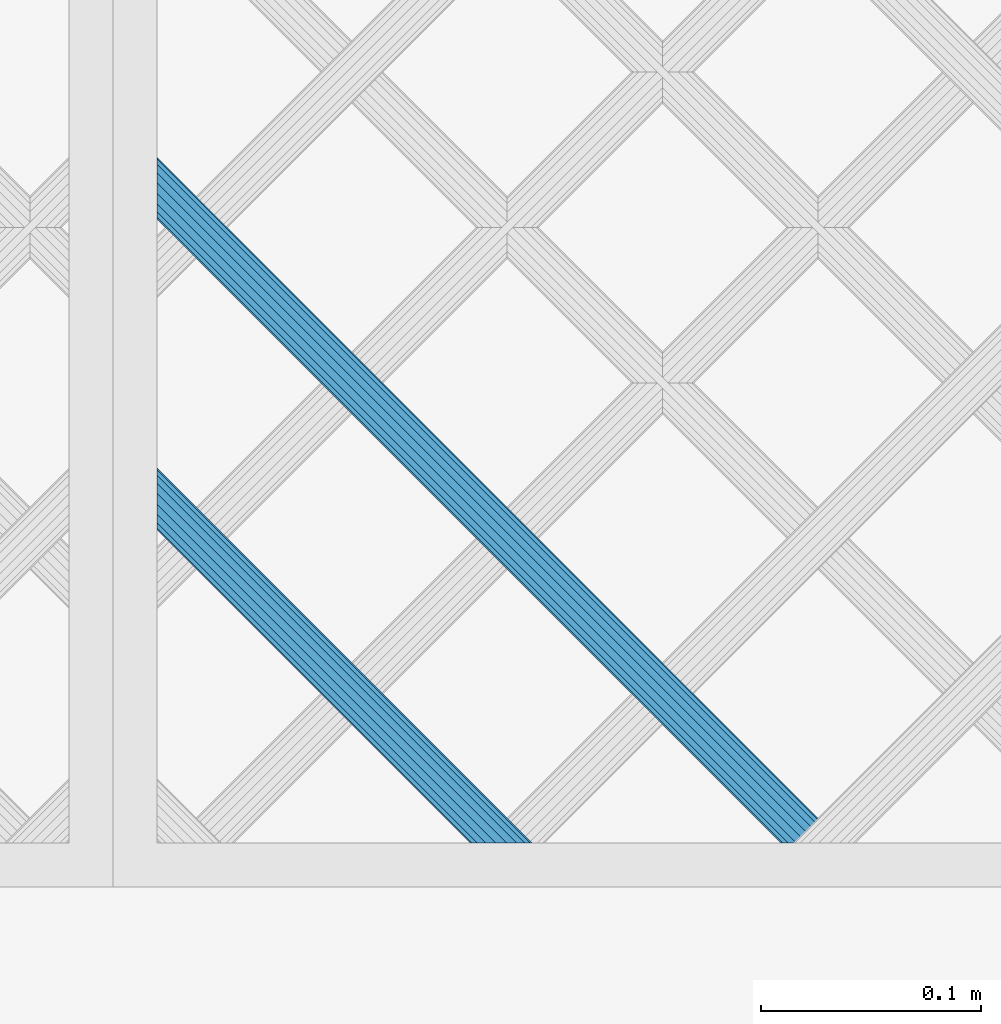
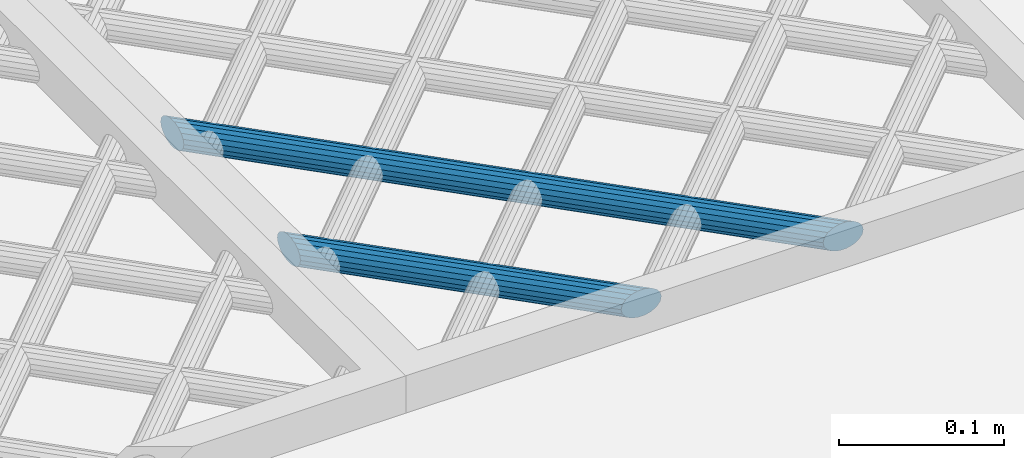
# One storey, part 78 of 133: 2 members, 1 element without a shape of its own.
"""IFC2X3 building model written with IfcOpenShell, lengths in centimetres."""

from ifc_helpers import new_model, entity, si_unit, converted_unit, direction, frame, origin, origin_with_axes, place, context, subcontext, project, spatial, faceted_brep, material, type_object, element, aggregate, save


model = new_model("IFC2X3")

# Units and contexts
model_context = context("Model", 3, precision=0.0001, world=origin(), true_north=direction((0.225632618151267, 0.974212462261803, 0.0)))
body_context = subcontext(model_context, "Body", "Model", "MODEL_VIEW")
ifc_project = project(units=[si_unit("LENGTHUNIT", "METRE", prefix="CENTI"), si_unit("AREAUNIT", "SQUARE_METRE", prefix="CENTI"), si_unit("VOLUMEUNIT", "CUBIC_METRE", prefix="CENTI"), converted_unit("PLANEANGLEUNIT", "DEGREE", entity("IfcRatioMeasure", 0.0174532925), si_unit("PLANEANGLEUNIT", "RADIAN"), dimensions=[0, 0, 0, 0, 0, 0, 0])], contexts=[model_context])

# Site, building, storey
site_placement = place(None, origin_with_axes())
site = spatial("IfcSite", under=ifc_project, at=site_placement, Name="Default Site", CompositionType="ELEMENT")
building_placement = place(site_placement, origin_with_axes())
building = spatial("IfcBuilding", under=site, at=building_placement, Name="Default Building", CompositionType="ELEMENT")
storey_placement = place(building_placement, frame((0.0, 0.0, -291.400371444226), z_axis=(0.0, 0.0, 1.0), x_axis=(1.0, 0.0, 0.0)))
storey = spatial("IfcBuildingStorey", under=building, at=storey_placement, Name="Rez-de-Jardin", CompositionType="ELEMENT", Elevation=-291.400371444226)

# Assembly, members
building_element_proxy_type = type_object("IfcBuildingElementProxyType", Name="Type Object", PredefinedType="NOTDEFINED")
assembly_placement = place(storey_placement, frame((23.728219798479, 1298.33524038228, 113.0), z_axis=(0.0, 1.0, -2.38697950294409e-15), x_axis=(1.0, 0.0, 0.0)))
assembly = element("IfcElementAssembly", 1, at=assembly_placement, inside=storey, type_object=building_element_proxy_type, Name="Panneau 326485", ObjectType="Precast panel", PredefinedType="USERDEFINED")
ifc_material = material(Name="Aluminium satiné")
member_1_placement = place(assembly_placement, frame((30.4578691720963, 0.3420201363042, 1.99999995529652), z_axis=(1.16937776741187e-15, 1.43218081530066e-15, -1.0), x_axis=(-0.632457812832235, -0.774594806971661, -1.84894192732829e-15)))
member_1 = element("IfcMember", 2, at=member_1_placement, material=ifc_material, Name="4294966871", context=body_context, shape_type="Brep", body=[
    faceted_brep([(-1.38777878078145e-14, 0.0, 3.50414142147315e-14), (-0.388290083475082, -4.74034897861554e-48, 3.57593400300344e-14), (-0.799166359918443, -0.150246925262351, 3.6519026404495e-14), (-1.18307514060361, -0.432623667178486, 3.72288514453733e-14), (-1.49370756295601, -0.813066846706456, 3.78031927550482e-14), (-1.69359804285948, -1.24569095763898, 3.81727786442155e-14), (-1.75863665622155, -1.67831484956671, 3.82930312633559e-14), (-1.68098087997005, -2.05876033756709, 3.81494502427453e-14), (-1.46999321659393, -2.34113520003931, 3.77593463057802e-14), (-1.15112683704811, -2.49138695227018, 3.71697808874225e-14), (-0.762836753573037, -2.49138695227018, 3.64518550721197e-14), (-0.351960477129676, -2.34114002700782, 3.5692168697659e-14), (0.0319464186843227, -2.0587655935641, 3.49823471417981e-14), (0.342578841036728, -1.67832241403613, 3.44080058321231e-14), (0.542471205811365, -1.24569599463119, 3.40384164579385e-14), (0.607509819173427, -0.81307210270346, 3.39181638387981e-14), (0.529854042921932, -0.432626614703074, 3.40617448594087e-14), (0.318866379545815, -0.150251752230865, 3.44518487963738e-14), (18.2633287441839, 21.8270044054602, -28.3725839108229), (18.5282557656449, 21.6106910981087, -28.4578692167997), (18.7612286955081, 21.4204683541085, -28.7034463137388), (18.9341475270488, 21.2792798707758, -29.0796887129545), (19.026155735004, 21.2041550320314, -29.5412223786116), (19.026155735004, 21.2041550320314, -30.0323735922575), (18.9341475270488, 21.2792798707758, -30.4939042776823), (18.7612286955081, 21.4204683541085, -30.870146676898), (18.5282557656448, 21.6106910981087, -31.1157237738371), (18.2633287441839, 21.8270044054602, -31.201009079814), (17.9984017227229, 22.0433177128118, -31.1157237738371), (17.7654287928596, 22.233540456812, -30.870146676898), (17.592509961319, 22.3747289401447, -30.4939042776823), (17.5005017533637, 22.4498537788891, -30.0323735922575), (17.5005017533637, 22.4498537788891, -29.5412223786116), (17.592509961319, 22.3747289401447, -29.0796887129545), (17.7654287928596, 22.233540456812, -28.7034463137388), (17.9984017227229, 22.0433177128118, -28.4578692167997), (0.318866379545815, -0.150251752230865, 3.43475248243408e-14), (0.529853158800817, -0.432627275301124, -1.07086509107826e-06), (18.5282548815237, 21.6106904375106, -28.4578702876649), (0.529854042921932, -0.432626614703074, 3.43475248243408e-14), (0.607510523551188, -0.813071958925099, 5.56859223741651e-07), (18.7612293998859, 21.4204684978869, -28.7034457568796), (0.607509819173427, -0.81307210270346, 3.36536354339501e-14), (0.542470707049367, -1.24569591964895, -2.57365033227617e-07), (18.9341470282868, 21.2792799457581, -29.0796889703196), (0.542471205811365, -1.24569599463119, 3.40005801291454e-14), (0.342579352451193, -1.67832265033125, 1.40415138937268e-07), (19.0261562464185, 21.2041547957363, -29.5412222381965), (0.342578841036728, -1.67832241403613, 3.43475248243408e-14), (0.0319464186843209, -2.0587655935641, 3.50414142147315e-14), (0.0319464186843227, -2.0587655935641, 3.50414142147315e-14), (-0.351960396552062, -2.3411401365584, -3.38953304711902e-08), (18.9341476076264, 21.2792797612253, -30.4939043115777), (-0.351960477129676, -2.34114002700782, 3.57353036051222e-14), (-0.762836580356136, -2.4913874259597, -2.57365028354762e-07), (18.761228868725, 21.420467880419, -30.8701469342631), (-0.762836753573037, -2.49138695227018, 3.64291929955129e-14), (-1.15112683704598, -2.49138623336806, 5.56859226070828e-07), (18.528255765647, 21.6106918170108, -31.1157232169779), (-1.15112683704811, -2.49138695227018, 3.7470027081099e-14), (-1.46999368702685, -2.34113619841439, -1.07086508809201e-06), (18.263328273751, 21.8270034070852, -31.2010101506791), (18.5282557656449, 21.6106910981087, -31.1157237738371), (-1.46999321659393, -2.34113520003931, 3.78169717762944e-14), (-1.68097999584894, -2.05875967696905, 1.0708651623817e-06), (17.998402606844, 22.0433183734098, -31.115722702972), (-1.68098087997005, -2.05876033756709, 3.81639164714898e-14), (-1.75863736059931, -1.67831499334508, -5.56859151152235e-07), (17.7654280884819, 22.2335403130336, -30.8701472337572), (-1.75863665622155, -1.67831484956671, 3.85108611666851e-14), (-1.69359754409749, -1.24569103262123, 2.57365105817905e-07), (17.592510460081, 22.3747288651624, -30.4939040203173), (-1.69359804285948, -1.24569095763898, 3.85108611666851e-14), (-1.49370743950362, -0.813066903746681, 3.38954026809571e-08), (17.5005018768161, 22.4498537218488, -30.0323735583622), (-1.49370756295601, -0.813066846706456, 3.78169717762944e-14), (-1.18307514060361, -0.432623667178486, 3.71230823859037e-14), (-0.799166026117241, -0.150247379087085, -1.40415066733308e-07), (17.5925102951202, 22.3747284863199, -29.0796888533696), (-0.799166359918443, -0.150246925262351, 3.67761376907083e-14), (-0.388290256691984, 4.73689528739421e-07, 2.5736510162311e-07), (17.7654286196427, 22.2335409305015, -28.7034460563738), (-0.388290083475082, 0.0, 3.57353036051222e-14), (-2.14350313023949e-12, -7.18902111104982e-07, -5.56859153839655e-07), (17.9984017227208, 22.0433169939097, -28.4578697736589), (0.31886684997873, -0.150250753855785, 1.07086515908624e-06), (18.2633292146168, 21.8270054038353, -28.3725828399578)], [[[0, 1, 2, 3, 4, 5, 6, 7, 8, 9, 10, 11, 12, 13, 14, 15, 16, 17]], [[18, 19, 20, 21, 22, 23, 24, 25, 26, 27, 28, 29, 30, 31, 32, 33, 34, 35]], [[36, 37, 38, 18]], [[39, 40, 41, 19]], [[42, 43, 44, 20]], [[45, 46, 47, 21]], [[48, 49, 23, 22]], [[50, 51, 52, 23]], [[53, 54, 55, 24]], [[56, 57, 58, 25]], [[59, 60, 61, 62]], [[63, 64, 65, 27]], [[66, 67, 68, 28]], [[69, 70, 71, 29]], [[72, 73, 74, 30]], [[75, 76, 32, 31]], [[76, 77, 78, 32]], [[79, 80, 81, 33]], [[82, 83, 84, 34]], [[0, 85, 86, 35]]]),
])
member_2_placement = place(assembly_placement, frame((16.3157343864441, 0.3420201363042, 1.99999995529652), z_axis=(1.16937634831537e-15, 1.43218776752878e-15, -1.0), x_axis=(-0.632455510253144, -0.774596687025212, -1.84894641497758e-15)))
member_2 = element("IfcMember", 3, at=member_2_placement, material=ifc_material, Name="4294966870", context=body_context, shape_type="Brep", body=[
    faceted_brep([(-4.16333634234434e-15, -1.11022302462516e-14, 1.83880688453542e-14), (-0.388289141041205, -1.11022302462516e-14, 1.9105994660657e-14), (-0.799165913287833, -0.150249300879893, 1.98656837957e-14), (-1.18307291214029, -0.432626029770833, 2.0575507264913e-14), (-1.49370420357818, -0.813070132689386, 2.1149847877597e-14), (-1.69359339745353, -1.24569483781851, 2.15194322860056e-14), (-1.75863166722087, -1.67832007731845, 2.16396845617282e-14), (-1.68097381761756, -2.058764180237, 2.14960993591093e-14), (-1.46998625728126, -2.34113956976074, 2.11059946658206e-14), (-1.15111848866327, -2.49138921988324, 2.05164252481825e-14), (-0.762829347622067, -2.49138921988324, 1.97984994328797e-14), (-0.351952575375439, -2.34113991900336, 1.90388102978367e-14), (0.0319534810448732, -2.05876434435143, 1.83289885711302e-14), (0.342584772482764, -1.67832024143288, 1.77546479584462e-14), (0.542474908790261, -1.24569438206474, 1.73850618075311e-14), (0.607513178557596, -0.81306914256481, 1.72648095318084e-14), (0.529855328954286, -0.432625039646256, 1.74083947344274e-14), (0.318867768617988, -0.150249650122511, 1.7798499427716e-14), (9.31899278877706, 10.8726079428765, -14.2304476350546), (9.58392045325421, 10.6562954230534, -14.3157344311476), (9.81689394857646, 10.4660733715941, -14.5613100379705), (9.98981319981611, 10.3248854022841, -14.9375539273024), (10.0818216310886, 10.2497608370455, -15.3990861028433), (10.0818216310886, 10.2497608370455, -15.8902373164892), (9.9898131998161, 10.3248854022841, -16.351768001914), (9.81689394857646, 10.4660733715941, -16.7280118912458), (9.5839204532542, 10.6562954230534, -16.9735874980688), (9.31899278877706, 10.8726079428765, -17.0588742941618), (9.05406512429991, 11.0889204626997, -16.9735874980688), (8.82109162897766, 11.2791425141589, -16.7280118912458), (8.64817237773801, 11.420330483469, -16.351768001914), (8.55616394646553, 11.4954550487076, -15.8902373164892), (8.55616394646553, 11.4954550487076, -15.3990861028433), (8.64817237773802, 11.420330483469, -14.9375539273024), (8.82109162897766, 11.2791425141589, -14.5613100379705), (9.05406512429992, 11.0889204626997, -14.3157344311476), (0.318867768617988, -0.150249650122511, 1.80411241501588e-14), (0.52985504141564, -0.432625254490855, -3.48273298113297e-07), (9.58392016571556, 10.6562952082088, -14.3157347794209), (9.31899278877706, 10.8726079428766, -14.2304476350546), (0.529855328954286, -0.432625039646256, 1.76941794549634e-14), (0.607513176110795, -0.813069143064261, -1.93434894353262e-09), (9.81689394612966, 10.4660733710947, -14.5613100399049), (0.607513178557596, -0.81306914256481, 1.73472347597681e-14), (0.542475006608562, -1.24569439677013, 5.04749983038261e-08), (9.98981329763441, 10.3248853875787, -14.9375538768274), (9.81689394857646, 10.4660733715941, -14.5613100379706), (0.542474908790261, -1.24569438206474, 1.73472347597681e-14), (0.342584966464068, -1.67832033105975, 5.32598875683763e-08), (10.0818218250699, 10.2497607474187, -15.3990860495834), (9.9898131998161, 10.3248854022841, -14.9375539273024), (0.342584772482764, -1.67832024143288, 1.80411241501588e-14), (0.0319534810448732, -2.05876434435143, 1.83880688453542e-14), (-0.351952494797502, -2.3411400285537, -3.38953462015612e-08), (9.98981328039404, 10.3248852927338, -16.3517680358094), (-0.351952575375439, -2.34113991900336, 1.90819582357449e-14), (-0.762829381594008, -2.49138912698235, 5.04750004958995e-08), (9.81689391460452, 10.466073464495, -16.7280118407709), (-0.762829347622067, -2.49138921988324, 1.97758476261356e-14), (-1.15111848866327, -2.4913892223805, -1.93434547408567e-09), (9.5839204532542, 10.6562954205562, -16.9735875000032), (9.81689394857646, 10.4660733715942, -16.7280118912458), (-1.15111848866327, -2.49138921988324, 2.08166817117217e-14), (-1.46998641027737, -2.34113989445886, -3.4827329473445e-07), (9.31899263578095, 10.8726076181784, -17.0588746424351), (-1.46998625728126, -2.34113956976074, 2.1163626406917e-14), (-1.68097353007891, -2.0587639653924, 3.48273337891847e-07), (9.05406541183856, 11.0889206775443, -16.9735871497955), (9.31899278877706, 10.8726079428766, -17.0588742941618), (-1.68097381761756, -2.058764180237, 2.15105711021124e-14), (-1.75863166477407, -1.67832007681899, 1.93438814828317e-09), (8.82109163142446, 11.2791425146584, -16.7280118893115), (-1.75863166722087, -1.67832007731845, 2.18575157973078e-14), (-1.69359349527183, -1.24569482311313, -5.04749602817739e-08), (8.64817227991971, 11.4203304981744, -16.351768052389), (-1.69359339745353, -1.24569483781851, 2.18575157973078e-14), (-1.49370408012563, -0.813070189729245, 3.38953864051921e-08), (8.55616406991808, 11.4954549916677, -15.8902372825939), (-1.49370420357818, -0.813070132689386, 2.1163626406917e-14), (-1.18307291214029, -0.432626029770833, 2.08166817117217e-14), (-0.799165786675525, -0.150249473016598, -5.32598495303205e-08), (8.64817250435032, 11.4203303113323, -14.9375539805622), (-0.799165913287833, -0.150249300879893, 2.0122792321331e-14), (-0.388289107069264, -9.2900901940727e-08, -5.0474961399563e-08), (8.8210916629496, 11.2791424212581, -14.5613100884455), (8.64817237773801, 11.420330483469, -14.9375539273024), (-0.388289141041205, -1.11022302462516e-14, 1.94289029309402e-14), (-4.18903383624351e-15, 2.49724485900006e-09, 1.93438456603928e-09), (9.05406512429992, 11.0889204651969, -14.3157344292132), (8.82109162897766, 11.279142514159, -14.5613100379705), (0.318867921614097, -0.150249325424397, 3.48273333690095e-07), (9.31899294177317, 10.8726082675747, -14.2304472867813)], [[[0, 1, 2, 3, 4, 5, 6, 7, 8, 9, 10, 11, 12, 13, 14, 15, 16, 17]], [[18, 19, 20, 21, 22, 23, 24, 25, 26, 27, 28, 29, 30, 31, 32, 33, 34, 35]], [[36, 37, 38, 39]], [[40, 41, 42, 19]], [[43, 44, 45, 46]], [[47, 48, 49, 50]], [[51, 52, 23, 22]], [[52, 53, 54, 23]], [[55, 56, 57, 24]], [[58, 59, 60, 61]], [[62, 63, 64, 26]], [[65, 66, 67, 68]], [[69, 70, 71, 28]], [[72, 73, 74, 29]], [[75, 76, 77, 30]], [[78, 79, 32, 31]], [[79, 80, 81, 32]], [[82, 83, 84, 85]], [[86, 87, 88, 89]], [[0, 90, 91, 35]]]),
])
aggregate(assembly, [member_1, member_2])

save(model, "model.ifc")
